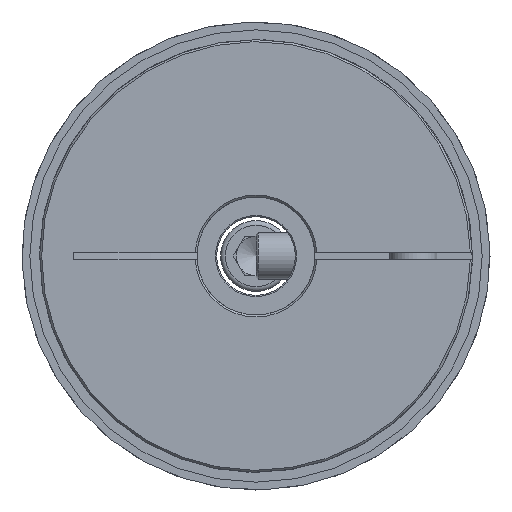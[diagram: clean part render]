
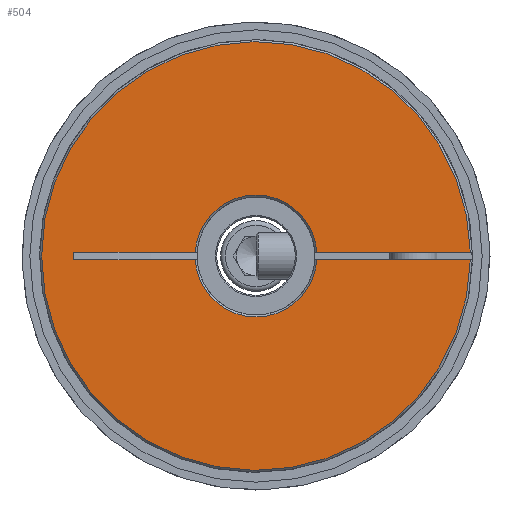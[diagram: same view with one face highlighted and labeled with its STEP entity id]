
A CAD part, left-side view. The second image highlights one B-rep face of the part: STEP entity #504.
In plain terms, the highlighted planar face has unit normal (-1, 0, 0).
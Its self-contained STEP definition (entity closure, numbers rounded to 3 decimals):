
#504 = ADVANCED_FACE( 'NONE', ( #1008 ), #1009, .F. );
#1008 = FACE_OUTER_BOUND( '', #1497, .T. );
#1009 = PLANE( '', #1498 );
#1497 = EDGE_LOOP( '', ( #2317, #2318, #2319, #2320, #2321, #2322, #2323, #2324 ) );
#1498 = AXIS2_PLACEMENT_3D( '', #2325, #2326, #2327 );
#2317 = ORIENTED_EDGE( '', *, *, #2780, .T. );
#2318 = ORIENTED_EDGE( '', *, *, #2765, .T. );
#2319 = ORIENTED_EDGE( '', *, *, #2776, .T. );
#2320 = ORIENTED_EDGE( '', *, *, #2782, .T. );
#2321 = ORIENTED_EDGE( '', *, *, #2783, .F. );
#2322 = ORIENTED_EDGE( '', *, *, #2784, .T. );
#2323 = ORIENTED_EDGE( '', *, *, #2785, .F. );
#2324 = ORIENTED_EDGE( '', *, *, #2762, .T. );
#2325 = CARTESIAN_POINT( '', ( 0., 15., 0. ) );
#2326 = DIRECTION( '', ( 1., 0., 0. ) );
#2327 = DIRECTION( '', ( 0., 1., 0. ) );
#2762 = EDGE_CURVE( 'NONE', #3149, #3153, #3155, .T. );
#2765 = EDGE_CURVE( 'NONE', #3161, #3159, #3162, .T. );
#2776 = EDGE_CURVE( 'NONE', #3159, #3180, #3181, .T. );
#2780 = EDGE_CURVE( 'NONE', #3153, #3161, #3186, .T. );
#2782 = EDGE_CURVE( 'NONE', #3180, #3189, #3190, .F. );
#2783 = EDGE_CURVE( 'NONE', #3191, #3189, #3192, .F. );
#2784 = EDGE_CURVE( 'NONE', #3191, #3193, #3194, .T. );
#2785 = EDGE_CURVE( 'NONE', #3149, #3193, #3195, .F. );
#3149 = VERTEX_POINT( 'NONE', #4272 );
#3153 = VERTEX_POINT( 'NONE', #4279 );
#3155 = LINE( '', #4281, #4282 );
#3159 = VERTEX_POINT( 'NONE', #4286 );
#3161 = VERTEX_POINT( 'NONE', #4291 );
#3162 = CIRCLE( '', #4292, 15.5 );
#3180 = VERTEX_POINT( 'NONE', #4318 );
#3181 = LINE( '', #4319, #4320 );
#3186 = LINE( '', #4329, #4330 );
#3189 = VERTEX_POINT( 'NONE', #4333 );
#3190 = CIRCLE( '', #4334, 54.5 );
#3191 = VERTEX_POINT( 'NONE', #4335 );
#3192 = LINE( '', #4336, #4337 );
#3193 = VERTEX_POINT( 'NONE', #4338 );
#3194 = CIRCLE( '', #4339, 15.5 );
#3195 = LINE( '', #4340, #4341 );
#4272 = CARTESIAN_POINT( '', ( 0., 46.303, -1. ) );
#4279 = CARTESIAN_POINT( '', ( 0., 46.303, 1. ) );
#4281 = CARTESIAN_POINT( '', ( 0., 46.303, -1. ) );
#4282 = VECTOR( '', #4815, 1000. );
#4286 = CARTESIAN_POINT( '', ( 0., -15.468, 1. ) );
#4291 = CARTESIAN_POINT( '', ( 0., 15.468, 1. ) );
#4292 = AXIS2_PLACEMENT_3D( '', #4819, #4820, #4821 );
#4318 = CARTESIAN_POINT( '', ( 0., -54.491, 1. ) );
#4319 = CARTESIAN_POINT( '', ( 0., 15., 1. ) );
#4320 = VECTOR( '', #4839, 1000. );
#4329 = CARTESIAN_POINT( '', ( 0., 15., 1. ) );
#4330 = VECTOR( '', #4844, 1000. );
#4333 = CARTESIAN_POINT( '', ( 0., -54.491, -1. ) );
#4334 = AXIS2_PLACEMENT_3D( '', #4848, #4849, #4850 );
#4335 = CARTESIAN_POINT( '', ( 0., -15.468, -1. ) );
#4336 = CARTESIAN_POINT( '', ( 0., -15., -1. ) );
#4337 = VECTOR( '', #4851, 1000. );
#4338 = CARTESIAN_POINT( '', ( 0., 15.468, -1. ) );
#4339 = AXIS2_PLACEMENT_3D( '', #4852, #4853, #4854 );
#4340 = CARTESIAN_POINT( '', ( 0., -15., -1. ) );
#4341 = VECTOR( '', #4855, 1000. );
#4815 = DIRECTION( '', ( 0., 0., 1. ) );
#4819 = CARTESIAN_POINT( '', ( 0., 0., 0. ) );
#4820 = DIRECTION( '', ( 1., 0., 0. ) );
#4821 = DIRECTION( '', ( 0., 0., -1. ) );
#4839 = DIRECTION( '', ( 0., -1., 0. ) );
#4844 = DIRECTION( '', ( 0., -1., 0. ) );
#4848 = CARTESIAN_POINT( '', ( 0., 0., 0. ) );
#4849 = DIRECTION( '', ( 1., 0., 0. ) );
#4850 = DIRECTION( '', ( 0., 0., -1. ) );
#4851 = DIRECTION( '', ( 0., 1., 0. ) );
#4852 = CARTESIAN_POINT( '', ( 0., 0., 0. ) );
#4853 = DIRECTION( '', ( 1., 0., 0. ) );
#4854 = DIRECTION( '', ( 0., 0., -1. ) );
#4855 = DIRECTION( '', ( 0., 1., 0. ) );
